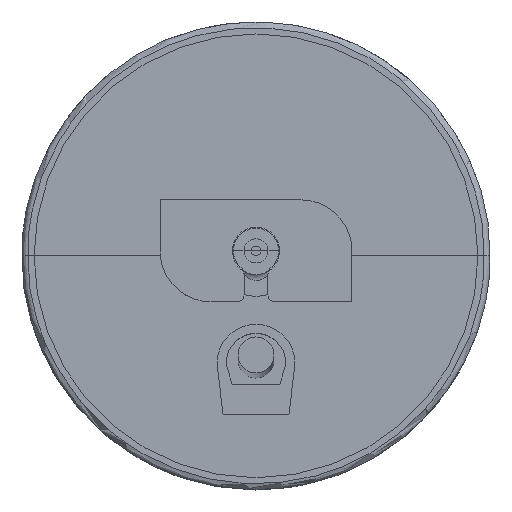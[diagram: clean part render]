
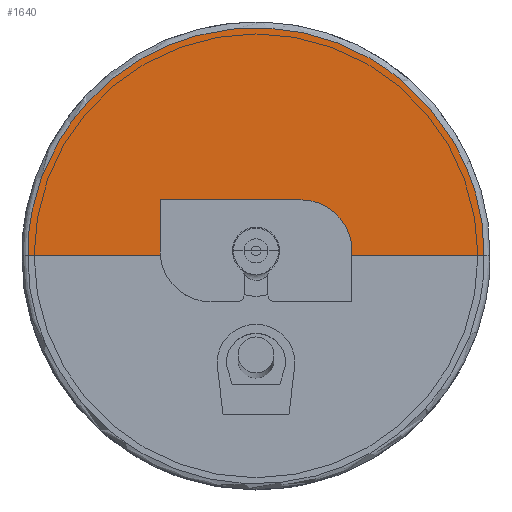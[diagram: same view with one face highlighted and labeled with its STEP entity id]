
A CAD part, top view. The second image highlights one B-rep face of the part: STEP entity #1640.
In plain terms, the highlighted planar face has unit normal (0, 0, 1).
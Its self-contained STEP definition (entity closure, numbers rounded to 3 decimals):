
#35=B_SPLINE_CURVE_WITH_KNOTS('',3,(#2679,#2680,#2681,#2682),
 .UNSPECIFIED.,.F.,.F.,(4,4),(0.833,1.),.UNSPECIFIED.);
#36=B_SPLINE_CURVE_WITH_KNOTS('',3,(#2684,#2685,#2686,#2687),
 .UNSPECIFIED.,.F.,.F.,(4,4),(0.667,0.833),
 .UNSPECIFIED.);
#37=B_SPLINE_CURVE_WITH_KNOTS('',3,(#2689,#2690,#2691,#2692,#2693),
 .UNSPECIFIED.,.F.,.F.,(4,1,4),(0.333,0.5,0.667),
 .UNSPECIFIED.);
#38=B_SPLINE_CURVE_WITH_KNOTS('',3,(#2695,#2696,#2697,#2698),
 .UNSPECIFIED.,.F.,.F.,(4,4),(0.167,0.333),
 .UNSPECIFIED.);
#39=B_SPLINE_CURVE_WITH_KNOTS('',3,(#2700,#2701,#2702,#2703),
 .UNSPECIFIED.,.F.,.F.,(4,4),(0.,0.167),.UNSPECIFIED.);
#106=PLANE('',#1779);
#179=FACE_OUTER_BOUND('',#287,.T.);
#287=EDGE_LOOP('',(#1309,#1310,#1311,#1312,#1313,#1314,#1315,#1316));
#373=CIRCLE('',#1780,6.75);
#497=LINE('',#2784,#635);
#498=LINE('',#2787,#636);
#635=VECTOR('',#2114,304.8);
#636=VECTOR('',#2117,304.8);
#765=VERTEX_POINT('',#2625);
#766=VERTEX_POINT('',#2678);
#767=VERTEX_POINT('',#2683);
#768=VERTEX_POINT('',#2688);
#769=VERTEX_POINT('',#2694);
#770=VERTEX_POINT('',#2699);
#775=VERTEX_POINT('',#2783);
#776=VERTEX_POINT('',#2785);
#952=EDGE_CURVE('',#766,#765,#35,.T.);
#953=EDGE_CURVE('',#767,#766,#36,.T.);
#954=EDGE_CURVE('',#768,#767,#37,.T.);
#955=EDGE_CURVE('',#769,#768,#38,.T.);
#956=EDGE_CURVE('',#770,#769,#39,.T.);
#963=EDGE_CURVE('',#775,#765,#497,.T.);
#964=EDGE_CURVE('',#776,#775,#373,.T.);
#965=EDGE_CURVE('',#770,#776,#498,.T.);
#1309=ORIENTED_EDGE('',*,*,#956,.T.);
#1310=ORIENTED_EDGE('',*,*,#955,.T.);
#1311=ORIENTED_EDGE('',*,*,#954,.T.);
#1312=ORIENTED_EDGE('',*,*,#953,.T.);
#1313=ORIENTED_EDGE('',*,*,#952,.T.);
#1314=ORIENTED_EDGE('',*,*,#963,.F.);
#1315=ORIENTED_EDGE('',*,*,#964,.F.);
#1316=ORIENTED_EDGE('',*,*,#965,.F.);
#1640=ADVANCED_FACE('',(#179),#106,.F.);
#1779=AXIS2_PLACEMENT_3D('',#2782,#2112,#2113);
#1780=AXIS2_PLACEMENT_3D('',#2786,#2115,#2116);
#2112=DIRECTION('center_axis',(0.,0.,-1.));
#2113=DIRECTION('ref_axis',(-1.,0.,0.));
#2114=DIRECTION('',(1.,0.,0.));
#2115=DIRECTION('center_axis',(0.,0.,1.));
#2116=DIRECTION('ref_axis',(-1.,0.,0.));
#2117=DIRECTION('',(1.,0.,0.));
#2625=CARTESIAN_POINT('',(38.021,0.,27.));
#2678=CARTESIAN_POINT('',(32.927,-19.01,27.));
#2679=CARTESIAN_POINT('Ctrl Pts',(32.927,-19.01,27.));
#2680=CARTESIAN_POINT('Ctrl Pts',(36.283,-13.289,27.));
#2681=CARTESIAN_POINT('Ctrl Pts',(38.17,-6.718,27.));
#2682=CARTESIAN_POINT('Ctrl Pts',(38.021,0.,
27.));
#2683=CARTESIAN_POINT('',(19.01,-32.927,27.));
#2684=CARTESIAN_POINT('Ctrl Pts',(19.01,-32.927,27.));
#2685=CARTESIAN_POINT('Ctrl Pts',(24.743,-29.605,27.));
#2686=CARTESIAN_POINT('Ctrl Pts',(29.57,-24.732,27.));
#2687=CARTESIAN_POINT('Ctrl Pts',(32.927,-19.01,27.));
#2688=CARTESIAN_POINT('',(-19.01,-32.927,27.));
#2689=CARTESIAN_POINT('Ctrl Pts',(-19.01,-32.927,27.));
#2690=CARTESIAN_POINT('Ctrl Pts',(-13.277,-36.249,27.));
#2691=CARTESIAN_POINT('Ctrl Pts',(0.,-39.792,
27.));
#2692=CARTESIAN_POINT('Ctrl Pts',(13.277,-36.249,27.));
#2693=CARTESIAN_POINT('Ctrl Pts',(19.01,-32.927,27.));
#2694=CARTESIAN_POINT('',(-32.927,-19.01,27.));
#2695=CARTESIAN_POINT('Ctrl Pts',(-32.927,-19.01,27.));
#2696=CARTESIAN_POINT('Ctrl Pts',(-29.57,-24.732,27.));
#2697=CARTESIAN_POINT('Ctrl Pts',(-24.743,-29.605,27.));
#2698=CARTESIAN_POINT('Ctrl Pts',(-19.01,-32.927,27.));
#2699=CARTESIAN_POINT('',(-38.021,0.,27.));
#2700=CARTESIAN_POINT('Ctrl Pts',(-38.021,0.,
27.));
#2701=CARTESIAN_POINT('Ctrl Pts',(-38.17,-6.718,27.));
#2702=CARTESIAN_POINT('Ctrl Pts',(-36.283,-13.289,27.));
#2703=CARTESIAN_POINT('Ctrl Pts',(-32.927,-19.01,27.));
#2782=CARTESIAN_POINT('Origin',(0.,0.,27.));
#2783=CARTESIAN_POINT('',(6.75,0.,27.));
#2784=CARTESIAN_POINT('',(6.75,0.,27.));
#2785=CARTESIAN_POINT('',(-6.75,0.,27.));
#2786=CARTESIAN_POINT('Origin',(0.,0.,27.));
#2787=CARTESIAN_POINT('',(-38.021,0.,27.));
